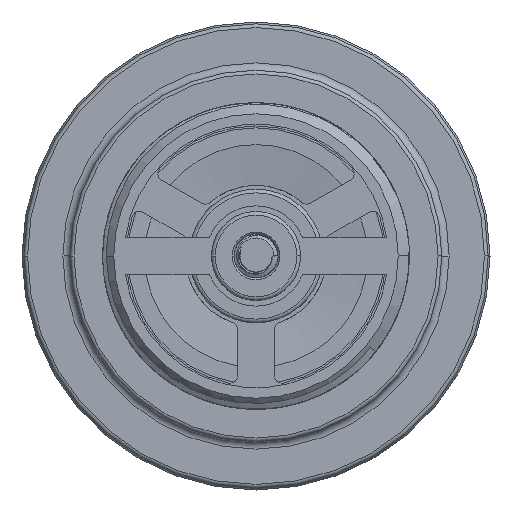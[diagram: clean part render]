
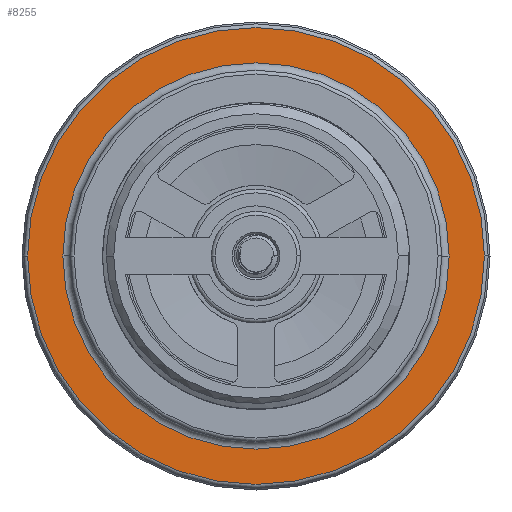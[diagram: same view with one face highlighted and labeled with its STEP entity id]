
A CAD part, front view. The second image highlights one B-rep face of the part: STEP entity #8255.
In plain terms, the highlighted planar face has unit normal (0, -1, 0).
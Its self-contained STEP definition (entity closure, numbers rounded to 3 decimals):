
#6774=CARTESIAN_POINT('',(0.,32.,0.));
#6775=DIRECTION('',(0.,1.,0.));
#6776=DIRECTION('',(1.,0.,0.));
#6777=AXIS2_PLACEMENT_3D('',#6774,#6775,#6776);
#6779=CARTESIAN_POINT('',(0.,32.,0.));
#6780=DIRECTION('',(0.,1.,0.));
#6781=DIRECTION('',(-1.,0.,0.));
#6782=AXIS2_PLACEMENT_3D('',#6779,#6780,#6781);
#6784=CARTESIAN_POINT('',(0.,32.,0.));
#6785=DIRECTION('',(0.,-1.,0.));
#6786=DIRECTION('',(-1.,0.,0.));
#6787=AXIS2_PLACEMENT_3D('',#6784,#6785,#6786);
#6789=CARTESIAN_POINT('',(0.,32.,0.));
#6790=DIRECTION('',(0.,-1.,0.));
#6791=DIRECTION('',(1.,0.,0.));
#6792=AXIS2_PLACEMENT_3D('',#6789,#6790,#6791);
#8044=CARTESIAN_POINT('',(30.75,32.,0.));
#8045=CARTESIAN_POINT('',(-30.75,32.,0.));
#8046=VERTEX_POINT('',#8044);
#8047=VERTEX_POINT('',#8045);
#8064=CARTESIAN_POINT('',(-26.,32.,0.));
#8065=CARTESIAN_POINT('',(26.,32.,0.));
#8066=VERTEX_POINT('',#8064);
#8067=VERTEX_POINT('',#8065);
#8240=CARTESIAN_POINT('',(0.,32.,0.));
#8241=DIRECTION('',(0.,1.,0.));
#8242=DIRECTION('',(1.,0.,0.));
#8243=AXIS2_PLACEMENT_3D('',#8240,#8241,#8242);
#8244=PLANE('',#8243);
#8245=ORIENTED_EDGE('',*,*,#8207,.T.);
#8246=ORIENTED_EDGE('',*,*,#8222,.T.);
#8247=EDGE_LOOP('',(#8245,#8246));
#8248=FACE_OUTER_BOUND('',#8247,.F.);
#8250=ORIENTED_EDGE('',*,*,#8249,.T.);
#8252=ORIENTED_EDGE('',*,*,#8251,.T.);
#8253=EDGE_LOOP('',(#8250,#8252));
#8254=FACE_BOUND('',#8253,.F.);
#6778=CIRCLE('',#6777,30.75);
#6783=CIRCLE('',#6782,30.75);
#6788=CIRCLE('',#6787,26.);
#6793=CIRCLE('',#6792,26.);
#8207=EDGE_CURVE('',#8046,#8047,#6778,.T.);
#8222=EDGE_CURVE('',#8047,#8046,#6783,.T.);
#8249=EDGE_CURVE('',#8066,#8067,#6788,.T.);
#8251=EDGE_CURVE('',#8067,#8066,#6793,.T.);
#8255=ADVANCED_FACE('',(#8248,#8254),#8244,.F.);
